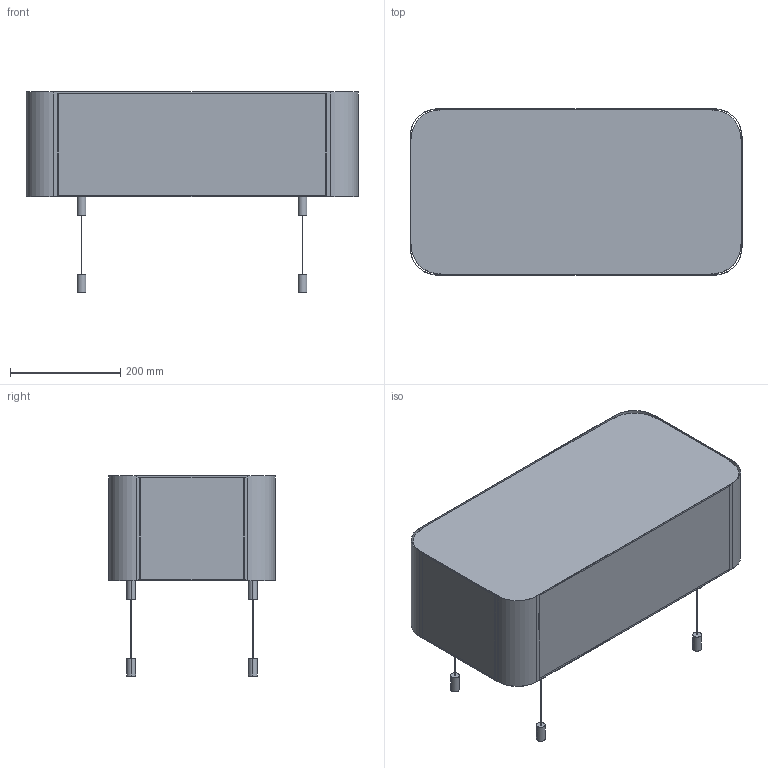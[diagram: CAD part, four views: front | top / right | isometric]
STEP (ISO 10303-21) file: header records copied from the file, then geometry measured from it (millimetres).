
FILE_DESCRIPTION(('Creo Elements/Direct Modeling STEP Export'),'2;1');
FILE_NAME('EMIL LED PENDELSET 600.stp','2016-04-05T11:08:09',(''),(''),'Creo Elements/Direct Modeling STEP processor for AP214 (Solid Model)','Creo Elements/Direct Modeling 18.1A 09-Jun-2012 (C) Parametric Technology GmbH','');
FILE_SCHEMA(('AUTOMOTIVE_DESIGN { 1 0 10303 214 1 1 1 1 }'));
Length unit declared in the file: millimetre
Products named in the file (2): EMIL_LED_PENDEL-300; EMIL_LED_PENDEL_300_600_190_UM_OM_H
Assembly tree (1 placements, depth 2):
  EMIL_LED_PENDEL_300_600_190_UM_OM_H
    EMIL_LED_PENDEL-300
Bounding box: 601 x 301 x 362.1 mm (x, y, z)
Volume: 32713373.9 mm3; surface area: 846154.5 mm2
Topology: 1 solids, 1 shells, 76 faces, 192 edges, 128 vertices
Faces by surface type: cylinder 52, plane 24
Entity records: 2281 total; most frequent: DIRECTION 404, ORIENTED_EDGE 384, CARTESIAN_POINT 374, EDGE_CURVE 192, AXIS2_PLACEMENT_3D 158, VERTEX_POINT 128, EDGE_LOOP 94, VECTOR 88
